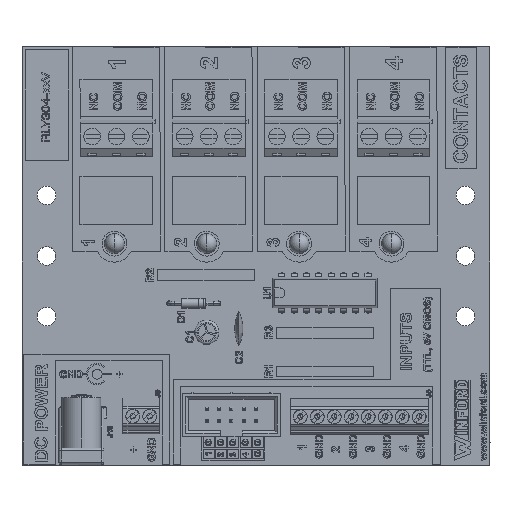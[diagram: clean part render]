
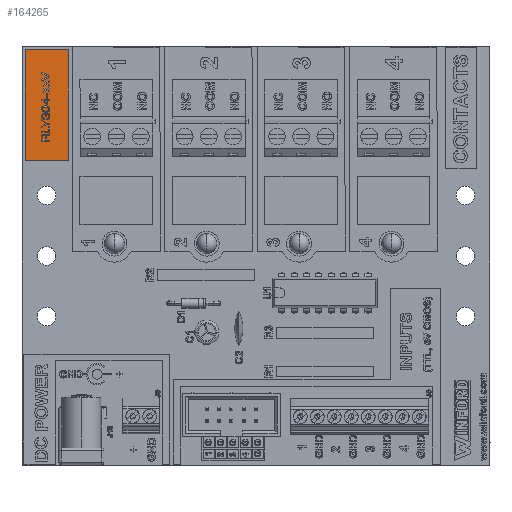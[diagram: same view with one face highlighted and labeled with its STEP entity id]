
A CAD part, top view. The second image highlights one B-rep face of the part: STEP entity #164265.
In plain terms, the highlighted planar face has unit normal (0, 0, 1).
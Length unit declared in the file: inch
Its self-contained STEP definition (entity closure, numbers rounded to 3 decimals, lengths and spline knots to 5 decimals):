
#2933 = EDGE_CURVE ( 'NONE', #173601, #98011, #74922, .T. ) ;
#3962 = CARTESIAN_POINT ( 'NONE',  ( 0.025, 2.475, 0.008 ) ) ;
#22000 = CARTESIAN_POINT ( 'NONE',  ( 0.375, 2.475, 0.008 ) ) ;
#40853 = CARTESIAN_POINT ( 'NONE',  ( 0.025, 2.475, 0.008 ) ) ;
#55921 = DIRECTION ( 'NONE',  ( 0., -1., 0. ) ) ;
#59940 = CARTESIAN_POINT ( 'NONE',  ( 0.375, 2.475, 0.008 ) ) ;
#63594 = ORIENTED_EDGE ( 'NONE', *, *, #147910, .T. ) ;
#65000 = CARTESIAN_POINT ( 'NONE',  ( 0.375, 3.375, 0.008 ) ) ;
#71059 = CARTESIAN_POINT ( 'NONE',  ( 0.375, 3.375, 0.008 ) ) ;
#74922 = LINE ( 'NONE', #65000, #104867 ) ;
#87631 = VECTOR ( 'NONE', #89966, 39.37008 ) ;
#89966 = DIRECTION ( 'NONE',  ( 0., 1., 0. ) ) ;
#98011 = VERTEX_POINT ( 'NONE', #112635 ) ;
#103004 = DIRECTION ( 'NONE',  ( -1., 0., 0. ) ) ;
#104867 = VECTOR ( 'NONE', #103004, 39.37008 ) ;
#106090 = VECTOR ( 'NONE', #55921, 39.37008 ) ;
#106986 = CARTESIAN_POINT ( 'NONE',  ( 0.025, 3.375, 0.008 ) ) ;
#109425 = LINE ( 'NONE', #22000, #87631 ) ;
#109863 = VERTEX_POINT ( 'NONE', #40853 ) ;
#112635 = CARTESIAN_POINT ( 'NONE',  ( 0.025, 3.375, 0.008 ) ) ;
#113833 = PLANE ( 'NONE',  #125819 ) ;
#116948 = ORIENTED_EDGE ( 'NONE', *, *, #165883, .T. ) ;
#125819 = AXIS2_PLACEMENT_3D ( 'NONE', #149674, #131291, #148166 ) ;
#125928 = DIRECTION ( 'NONE',  ( 1., 0., 0. ) ) ;
#128716 = ORIENTED_EDGE ( 'NONE', *, *, #2933, .T. ) ;
#131291 = DIRECTION ( 'NONE',  ( 0., 0., 1. ) ) ;
#142377 = ORIENTED_EDGE ( 'NONE', *, *, #195537, .T. ) ;
#147910 = EDGE_CURVE ( 'NONE', #109863, #181915, #151146, .T. ) ;
#148166 = DIRECTION ( 'NONE',  ( 1., 0., 0. ) ) ;
#149674 = CARTESIAN_POINT ( 'NONE',  ( 0.2, 2.925, 0.008 ) ) ;
#151146 = LINE ( 'NONE', #3962, #162119 ) ;
#162119 = VECTOR ( 'NONE', #125928, 39.37008 ) ;
#164265 = ADVANCED_FACE ( 'NONE', ( #192213 ), #113833, .T. ) ;
#165883 = EDGE_CURVE ( 'NONE', #98011, #109863, #198770, .T. ) ;
#173601 = VERTEX_POINT ( 'NONE', #71059 ) ;
#181915 = VERTEX_POINT ( 'NONE', #59940 ) ;
#192213 = FACE_OUTER_BOUND ( 'NONE', #205997, .T. ) ;
#195537 = EDGE_CURVE ( 'NONE', #181915, #173601, #109425, .T. ) ;
#198770 = LINE ( 'NONE', #106986, #106090 ) ;
#205997 = EDGE_LOOP ( 'NONE', ( #142377, #128716, #116948, #63594 ) ) ;
